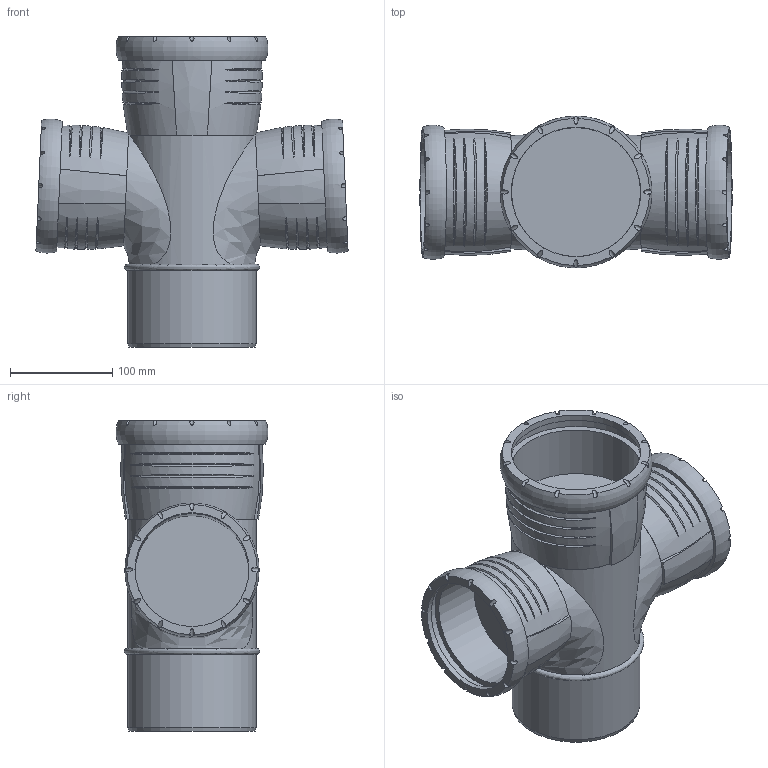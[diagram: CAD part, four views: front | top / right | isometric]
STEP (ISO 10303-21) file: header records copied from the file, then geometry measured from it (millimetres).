
FILE_DESCRIPTION(/* description */ (''),/* implementation_level */ '2;1');
FILE_NAME(/* name */ 'H:\Geberit-Teile\Export\Abzweig PP\stp\393665.stp',/* time_stamp */ '2017-02-13T13:24:37+01:00',/* author */ ('seihe2'),/* organization */ (''),/* preprocessor_version */ 'ST-DEVELOPER v15.2',/* originating_system */ 'Autodesk Inventor 2014',/* authorisation */ '');
FILE_SCHEMA (('AUTOMOTIVE_DESIGN { 1 0 10303 214 3 1 1 }'));
Length unit declared in the file: millimetre
Products named in the file (1): 393665
Bounding box: 304.73 x 148.35 x 303 mm (x, y, z)
Volume: 3467153.9 mm3; surface area: 441017.8 mm2
Topology: 6 solids, 6 shells, 157 faces, 368 edges, 262 vertices
Faces by surface type: bspline 69, cylinder 55, plane 29, torus 3, cone 1
Full cylindrical faces by diameter (mm): 90 x2, 95.978 x1, 111 x2, 111.3 x2, 115.2 x1, 121.5 x2, 125.2 x2, 126 x1, 126.4 x1, 138.1 x1
Entity records: 11705 total; most frequent: CARTESIAN_POINT 8475, ORIENTED_EDGE 682, DIRECTION 476, EDGE_CURVE 340, VERTEX_POINT 253, AXIS2_PLACEMENT_3D 237, EDGE_LOOP 219, B_SPLINE_CURVE_WITH_KNOTS 190
